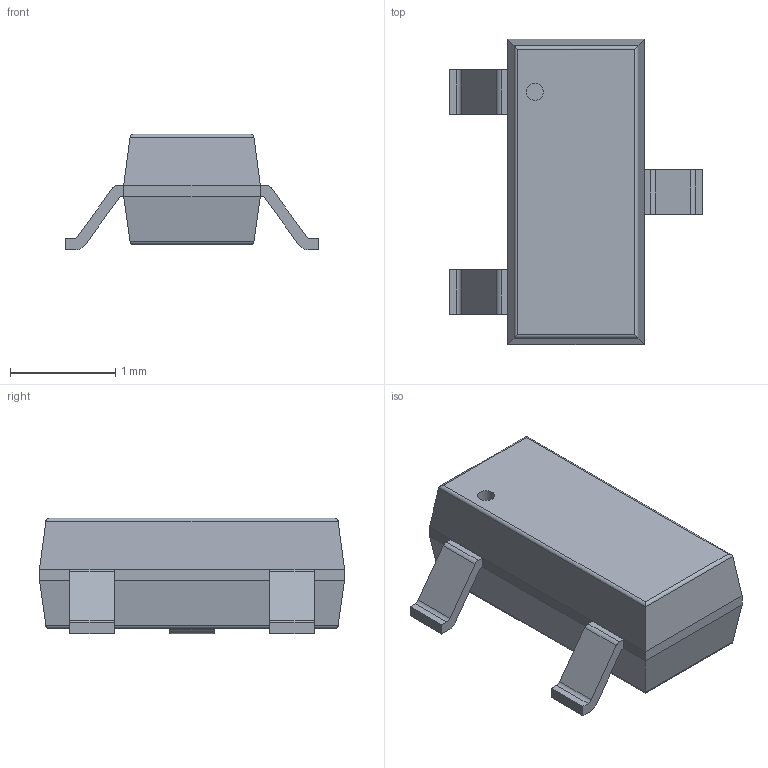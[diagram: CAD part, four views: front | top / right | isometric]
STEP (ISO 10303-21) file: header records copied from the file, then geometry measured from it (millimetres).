
FILE_DESCRIPTION(('FreeCAD Model'),'2;1');
FILE_NAME('/var/www/3D/0T/776903.1.1.stp','2022-01-27T10:24:50',( 'Author'),(''),'Open CASCADE STEP processor 6.9','FreeCAD','Unknown' );
FILE_SCHEMA(('AUTOMOTIVE_DESIGN { 1 0 10303 214 1 1 1 1 }'));
Length unit declared in the file: millimetre
Products named in the file (4): ASSEMBLY; Body; PinsArrayL; FilletPinR
Assembly tree (3 placements, depth 2):
  ASSEMBLY
    Body
    PinsArrayL
    FilletPinR
Bounding box: 2.4 x 2.9 x 1.1 mm (x, y, z)
Volume: 3.8 mm3; surface area: 17.8 mm2
Topology: 4 solids, 4 shells, 63 faces, 146 edges, 92 vertices
Faces by surface type: plane 45, cylinder 18
Full cylindrical faces by diameter (mm): 0.163 x1
Entity records: 3874 total; most frequent: CARTESIAN_POINT 785, DIRECTION 569, LINE 368, VECTOR 368, ORIENTED_EDGE 292, PCURVE 292, DEFINITIONAL_REPRESENTATION 292, EDGE_CURVE 146
